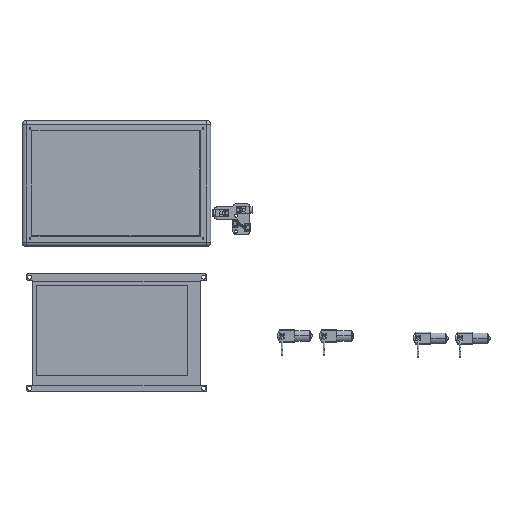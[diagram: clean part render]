
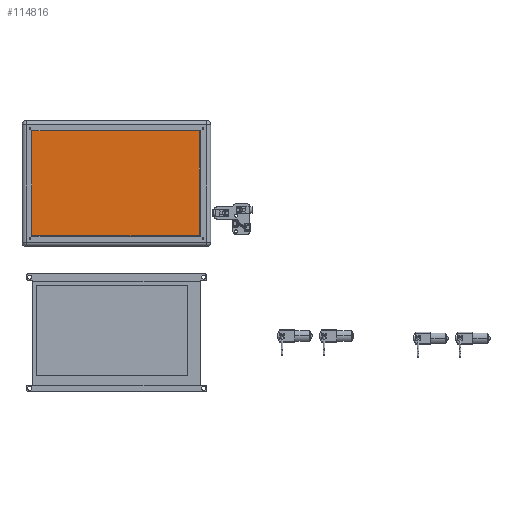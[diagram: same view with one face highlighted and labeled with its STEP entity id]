
A CAD part, top view. The second image highlights one B-rep face of the part: STEP entity #114816.
In plain terms, the highlighted planar face has unit normal (0, 0.004, 1).
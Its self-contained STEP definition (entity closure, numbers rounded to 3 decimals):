
#112276=CARTESIAN_POINT('',(78.02,-49.757,2.513));
#112277=VERTEX_POINT('',#112276);
#112284=CARTESIAN_POINT('',(-80.726,-49.757,2.513));
#112285=VERTEX_POINT('',#112284);
#112286=CARTESIAN_POINT('',(78.02,-49.757,2.513));
#112287=DIRECTION('',(-1.,0.,0.));
#112288=VECTOR('',#112287,158.746);
#112289=LINE('',#112286,#112288);
#112290=EDGE_CURVE('',#112277,#112285,#112289,.T.);
#112608=CARTESIAN_POINT('',(78.952,-46.629,2.499));
#112609=VERTEX_POINT('',#112608);
#112618=CARTESIAN_POINT('',(78.952,-47.701,2.504));
#112619=VERTEX_POINT('',#112618);
#112620=CARTESIAN_POINT('',(78.952,-47.701,2.504));
#112621=DIRECTION('',(0.,1.,-0.004));
#112622=VECTOR('',#112621,1.071);
#112623=LINE('',#112620,#112622);
#112624=EDGE_CURVE('',#112619,#112609,#112623,.T.);
#112658=CARTESIAN_POINT('',(78.952,-3.804,2.308));
#112659=VERTEX_POINT('',#112658);
#112666=CARTESIAN_POINT('',(78.952,-46.629,2.499));
#112667=DIRECTION('',(0.,1.,-0.004));
#112668=VECTOR('',#112667,42.826);
#112669=LINE('',#112666,#112668);
#112670=EDGE_CURVE('',#112609,#112659,#112669,.T.);
#114693=CARTESIAN_POINT('',(0.,0.01,2.291));
#114694=DIRECTION('',(0.,0.004,1.));
#114695=DIRECTION('',(0.,1.,-0.004));
#114696=AXIS2_PLACEMENT_3D('',#114693,#114694,#114695);
#114697=PLANE('',#114696);
#114698=ORIENTED_EDGE('',*,*,#112290,.F.);
#114699=CARTESIAN_POINT('',(79.02,-48.757,2.509));
#114700=VERTEX_POINT('',#114699);
#114701=CARTESIAN_POINT('',(78.02,-48.757,2.509));
#114702=DIRECTION('',(0.,0.004,1.));
#114703=DIRECTION('',(0.,-1.,0.004));
#114704=AXIS2_PLACEMENT_3D('',#114701,#114702,#114703);
#114705=CIRCLE('',#114704,1.);
#114706=EDGE_CURVE('',#112277,#114700,#114705,.T.);
#114707=ORIENTED_EDGE('',*,*,#114706,.T.);
#114708=CARTESIAN_POINT('',(79.02,-47.701,2.504));
#114709=VERTEX_POINT('',#114708);
#114710=CARTESIAN_POINT('',(79.02,-47.701,2.504));
#114711=DIRECTION('',(0.,-1.,0.004));
#114712=VECTOR('',#114711,1.057);
#114713=LINE('',#114710,#114712);
#114714=EDGE_CURVE('',#114709,#114700,#114713,.T.);
#114715=ORIENTED_EDGE('',*,*,#114714,.F.);
#114716=CARTESIAN_POINT('',(79.02,-47.701,2.504));
#114717=DIRECTION('',(-1.,0.,0.));
#114718=VECTOR('',#114717,0.067);
#114719=LINE('',#114716,#114718);
#114720=EDGE_CURVE('',#114709,#112619,#114719,.T.);
#114721=ORIENTED_EDGE('',*,*,#114720,.T.);
#114722=ORIENTED_EDGE('',*,*,#112624,.T.);
#114723=ORIENTED_EDGE('',*,*,#112670,.T.);
#114724=CARTESIAN_POINT('',(88.952,-3.804,2.308));
#114725=VERTEX_POINT('',#114724);
#114726=CARTESIAN_POINT('',(88.952,-3.804,2.308));
#114727=DIRECTION('',(-1.,0.,0.));
#114728=VECTOR('',#114727,10.);
#114729=LINE('',#114726,#114728);
#114730=EDGE_CURVE('',#114725,#112659,#114729,.T.);
#114731=ORIENTED_EDGE('',*,*,#114730,.F.);
#114732=CARTESIAN_POINT('',(88.952,49.298,2.07));
#114733=VERTEX_POINT('',#114732);
#114734=CARTESIAN_POINT('',(88.952,-3.804,2.308));
#114735=DIRECTION('',(0.,1.,-0.004));
#114736=VECTOR('',#114735,53.103);
#114737=LINE('',#114734,#114736);
#114738=EDGE_CURVE('',#114725,#114733,#114737,.T.);
#114739=ORIENTED_EDGE('',*,*,#114738,.T.);
#114740=CARTESIAN_POINT('',(79.02,49.298,2.07));
#114741=VERTEX_POINT('',#114740);
#114742=CARTESIAN_POINT('',(88.952,49.298,2.07));
#114743=DIRECTION('',(-1.,0.,0.));
#114744=VECTOR('',#114743,9.933);
#114745=LINE('',#114742,#114744);
#114746=EDGE_CURVE('',#114733,#114741,#114745,.T.);
#114747=ORIENTED_EDGE('',*,*,#114746,.T.);
#114748=CARTESIAN_POINT('',(79.02,54.241,2.048));
#114749=VERTEX_POINT('',#114748);
#114750=CARTESIAN_POINT('',(79.02,54.241,2.048));
#114751=DIRECTION('',(0.,-1.,0.004));
#114752=VECTOR('',#114751,4.943);
#114753=LINE('',#114750,#114752);
#114754=EDGE_CURVE('',#114749,#114741,#114753,.T.);
#114755=ORIENTED_EDGE('',*,*,#114754,.F.);
#114756=CARTESIAN_POINT('',(78.02,55.241,2.043));
#114757=VERTEX_POINT('',#114756);
#114758=CARTESIAN_POINT('',(78.02,54.241,2.048));
#114759=DIRECTION('',(0.,0.004,1.));
#114760=DIRECTION('',(0.,-1.,0.004));
#114761=AXIS2_PLACEMENT_3D('',#114758,#114759,#114760);
#114762=CIRCLE('',#114761,1.);
#114763=EDGE_CURVE('',#114749,#114757,#114762,.T.);
#114764=ORIENTED_EDGE('',*,*,#114763,.T.);
#114765=CARTESIAN_POINT('',(-79.98,55.241,2.043));
#114766=VERTEX_POINT('',#114765);
#114767=CARTESIAN_POINT('',(-79.98,55.241,2.043));
#114768=DIRECTION('',(1.,0.,-0.));
#114769=VECTOR('',#114768,158.);
#114770=LINE('',#114767,#114769);
#114771=EDGE_CURVE('',#114766,#114757,#114770,.T.);
#114772=ORIENTED_EDGE('',*,*,#114771,.F.);
#114773=CARTESIAN_POINT('',(-84.98,50.242,2.066));
#114774=VERTEX_POINT('',#114773);
#114775=CARTESIAN_POINT('',(-84.98,55.241,2.043));
#114776=DIRECTION('',(-0.,-0.004,-1.));
#114777=DIRECTION('',(0.,-1.,0.004));
#114778=AXIS2_PLACEMENT_3D('',#114775,#114776,#114777);
#114779=CIRCLE('',#114778,5.);
#114780=EDGE_CURVE('',#114766,#114774,#114779,.T.);
#114781=ORIENTED_EDGE('',*,*,#114780,.T.);
#114782=CARTESIAN_POINT('',(-85.457,50.242,2.066));
#114783=VERTEX_POINT('',#114782);
#114784=CARTESIAN_POINT('',(-84.98,50.242,2.066));
#114785=DIRECTION('',(-1.,-0.,0.));
#114786=VECTOR('',#114785,0.477);
#114787=LINE('',#114784,#114786);
#114788=EDGE_CURVE('',#114774,#114783,#114787,.T.);
#114789=ORIENTED_EDGE('',*,*,#114788,.T.);
#114790=CARTESIAN_POINT('',(-85.457,-45.444,2.494));
#114791=VERTEX_POINT('',#114790);
#114792=CARTESIAN_POINT('',(-85.457,-45.444,2.494));
#114793=DIRECTION('',(0.,1.,-0.004));
#114794=VECTOR('',#114793,95.686);
#114795=LINE('',#114792,#114794);
#114796=EDGE_CURVE('',#114791,#114783,#114795,.T.);
#114797=ORIENTED_EDGE('',*,*,#114796,.F.);
#114798=CARTESIAN_POINT('',(-81.302,-49.644,2.513));
#114799=VERTEX_POINT('',#114798);
#114800=CARTESIAN_POINT('',(-81.257,-45.444,2.494));
#114801=DIRECTION('',(0.,0.004,1.));
#114802=DIRECTION('',(0.,-1.,0.004));
#114803=AXIS2_PLACEMENT_3D('',#114800,#114801,#114802);
#114804=CIRCLE('',#114803,4.2);
#114805=EDGE_CURVE('',#114791,#114799,#114804,.T.);
#114806=ORIENTED_EDGE('',*,*,#114805,.T.);
#114807=CARTESIAN_POINT('',(-81.319,-51.244,2.52));
#114808=DIRECTION('',(-0.,-0.004,-1.));
#114809=DIRECTION('',(0.,-1.,0.004));
#114810=AXIS2_PLACEMENT_3D('',#114807,#114808,#114809);
#114811=CIRCLE('',#114810,1.6);
#114812=EDGE_CURVE('',#114799,#112285,#114811,.T.);
#114813=ORIENTED_EDGE('',*,*,#114812,.T.);
#114814=EDGE_LOOP('',(#114698,#114707,#114715,#114721,#114722,#114723,#114731,#114739,#114747,#114755,#114764,#114772,#114781,#114789,#114797,#114806,#114813));
#114815=FACE_BOUND('',#114814,.T.);
#114816=ADVANCED_FACE('',(#114815),#114697,.T.);
